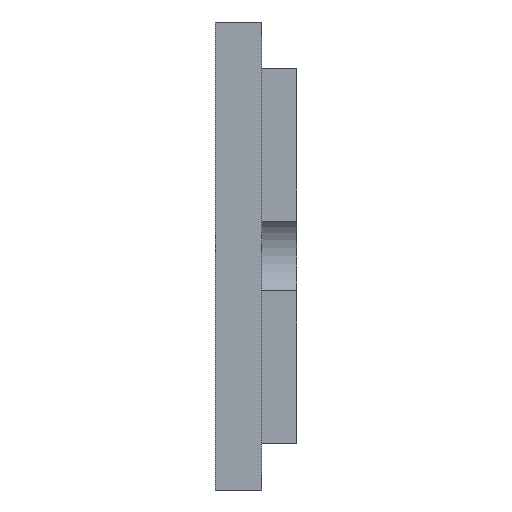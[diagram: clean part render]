
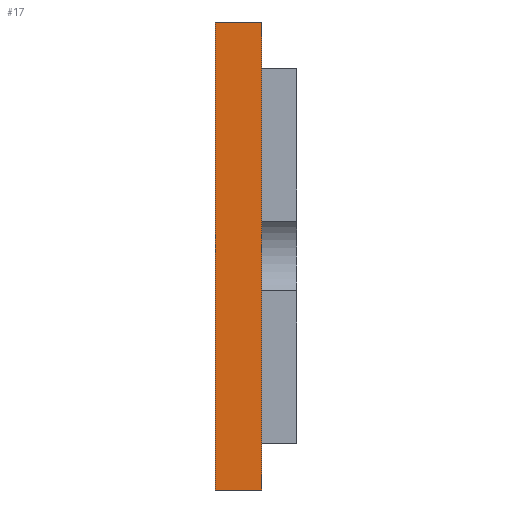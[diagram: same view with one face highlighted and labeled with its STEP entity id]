
A CAD part, left-side view. The second image highlights one B-rep face of the part: STEP entity #17.
In plain terms, the highlighted planar face has unit normal (-1, 0, 0).
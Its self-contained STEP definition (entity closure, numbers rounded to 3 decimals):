
#17 = ADVANCED_FACE('',(#18),#32,.F.);
#18 = FACE_BOUND('',#19,.F.);
#19 = EDGE_LOOP('',(#20,#55,#83,#111));
#20 = ORIENTED_EDGE('',*,*,#21,.F.);
#21 = EDGE_CURVE('',#22,#24,#26,.T.);
#22 = VERTEX_POINT('',#23);
#23 = CARTESIAN_POINT('',(-21.5,-13.3,-40.));
#24 = VERTEX_POINT('',#25);
#25 = CARTESIAN_POINT('',(-21.5,-13.3,-20.));
#26 = SURFACE_CURVE('',#27,(#31,#43),.PCURVE_S1.);
#27 = LINE('',#28,#29);
#28 = CARTESIAN_POINT('',(-21.5,-13.3,-40.));
#29 = VECTOR('',#30,1.);
#30 = DIRECTION('',(0.,0.,1.));
#31 = PCURVE('',#32,#37);
#32 = PLANE('',#33);
#33 = AXIS2_PLACEMENT_3D('',#34,#35,#36);
#34 = CARTESIAN_POINT('',(-21.5,-13.3,-40.));
#35 = DIRECTION('',(1.,0.,0.));
#36 = DIRECTION('',(0.,0.,1.));
#37 = DEFINITIONAL_REPRESENTATION('',(#38),#42);
#38 = LINE('',#39,#40);
#39 = CARTESIAN_POINT('',(0.,0.));
#40 = VECTOR('',#41,1.);
#41 = DIRECTION('',(1.,0.));
#42 = ( GEOMETRIC_REPRESENTATION_CONTEXT(2) 
PARAMETRIC_REPRESENTATION_CONTEXT() REPRESENTATION_CONTEXT('2D SPACE',''
  ) );
#43 = PCURVE('',#44,#49);
#44 = PLANE('',#45);
#45 = AXIS2_PLACEMENT_3D('',#46,#47,#48);
#46 = CARTESIAN_POINT('',(-21.5,-13.3,-40.));
#47 = DIRECTION('',(0.,1.,0.));
#48 = DIRECTION('',(0.,-0.,1.));
#49 = DEFINITIONAL_REPRESENTATION('',(#50),#54);
#50 = LINE('',#51,#52);
#51 = CARTESIAN_POINT('',(0.,0.));
#52 = VECTOR('',#53,1.);
#53 = DIRECTION('',(1.,0.));
#54 = ( GEOMETRIC_REPRESENTATION_CONTEXT(2) 
PARAMETRIC_REPRESENTATION_CONTEXT() REPRESENTATION_CONTEXT('2D SPACE',''
  ) );
#55 = ORIENTED_EDGE('',*,*,#56,.T.);
#56 = EDGE_CURVE('',#22,#57,#59,.T.);
#57 = VERTEX_POINT('',#58);
#58 = CARTESIAN_POINT('',(-21.5,-11.3,-40.));
#59 = SURFACE_CURVE('',#60,(#64,#71),.PCURVE_S1.);
#60 = LINE('',#61,#62);
#61 = CARTESIAN_POINT('',(-21.5,-13.3,-40.));
#62 = VECTOR('',#63,1.);
#63 = DIRECTION('',(0.,1.,0.));
#64 = PCURVE('',#32,#65);
#65 = DEFINITIONAL_REPRESENTATION('',(#66),#70);
#66 = LINE('',#67,#68);
#67 = CARTESIAN_POINT('',(0.,0.));
#68 = VECTOR('',#69,1.);
#69 = DIRECTION('',(0.,-1.));
#70 = ( GEOMETRIC_REPRESENTATION_CONTEXT(2) 
PARAMETRIC_REPRESENTATION_CONTEXT() REPRESENTATION_CONTEXT('2D SPACE',''
  ) );
#71 = PCURVE('',#72,#77);
#72 = PLANE('',#73);
#73 = AXIS2_PLACEMENT_3D('',#74,#75,#76);
#74 = CARTESIAN_POINT('',(-21.5,-13.3,-40.));
#75 = DIRECTION('',(0.,0.,1.));
#76 = DIRECTION('',(1.,0.,0.));
#77 = DEFINITIONAL_REPRESENTATION('',(#78),#82);
#78 = LINE('',#79,#80);
#79 = CARTESIAN_POINT('',(0.,0.));
#80 = VECTOR('',#81,1.);
#81 = DIRECTION('',(0.,1.));
#82 = ( GEOMETRIC_REPRESENTATION_CONTEXT(2) 
PARAMETRIC_REPRESENTATION_CONTEXT() REPRESENTATION_CONTEXT('2D SPACE',''
  ) );
#83 = ORIENTED_EDGE('',*,*,#84,.T.);
#84 = EDGE_CURVE('',#57,#85,#87,.T.);
#85 = VERTEX_POINT('',#86);
#86 = CARTESIAN_POINT('',(-21.5,-11.3,-20.));
#87 = SURFACE_CURVE('',#88,(#92,#99),.PCURVE_S1.);
#88 = LINE('',#89,#90);
#89 = CARTESIAN_POINT('',(-21.5,-11.3,-40.));
#90 = VECTOR('',#91,1.);
#91 = DIRECTION('',(0.,0.,1.));
#92 = PCURVE('',#32,#93);
#93 = DEFINITIONAL_REPRESENTATION('',(#94),#98);
#94 = LINE('',#95,#96);
#95 = CARTESIAN_POINT('',(0.,-2.));
#96 = VECTOR('',#97,1.);
#97 = DIRECTION('',(1.,0.));
#98 = ( GEOMETRIC_REPRESENTATION_CONTEXT(2) 
PARAMETRIC_REPRESENTATION_CONTEXT() REPRESENTATION_CONTEXT('2D SPACE',''
  ) );
#99 = PCURVE('',#100,#105);
#100 = PLANE('',#101);
#101 = AXIS2_PLACEMENT_3D('',#102,#103,#104);
#102 = CARTESIAN_POINT('',(-21.5,-11.3,-40.));
#103 = DIRECTION('',(0.,1.,0.));
#104 = DIRECTION('',(0.,0.,1.));
#105 = DEFINITIONAL_REPRESENTATION('',(#106),#110);
#106 = LINE('',#107,#108);
#107 = CARTESIAN_POINT('',(0.,0.));
#108 = VECTOR('',#109,1.);
#109 = DIRECTION('',(1.,0.));
#110 = ( GEOMETRIC_REPRESENTATION_CONTEXT(2) 
PARAMETRIC_REPRESENTATION_CONTEXT() REPRESENTATION_CONTEXT('2D SPACE',''
  ) );
#111 = ORIENTED_EDGE('',*,*,#112,.F.);
#112 = EDGE_CURVE('',#24,#85,#113,.T.);
#113 = SURFACE_CURVE('',#114,(#118,#125),.PCURVE_S1.);
#114 = LINE('',#115,#116);
#115 = CARTESIAN_POINT('',(-21.5,-13.3,-20.));
#116 = VECTOR('',#117,1.);
#117 = DIRECTION('',(0.,1.,0.));
#118 = PCURVE('',#32,#119);
#119 = DEFINITIONAL_REPRESENTATION('',(#120),#124);
#120 = LINE('',#121,#122);
#121 = CARTESIAN_POINT('',(20.,0.));
#122 = VECTOR('',#123,1.);
#123 = DIRECTION('',(0.,-1.));
#124 = ( GEOMETRIC_REPRESENTATION_CONTEXT(2) 
PARAMETRIC_REPRESENTATION_CONTEXT() REPRESENTATION_CONTEXT('2D SPACE',''
  ) );
#125 = PCURVE('',#126,#131);
#126 = PLANE('',#127);
#127 = AXIS2_PLACEMENT_3D('',#128,#129,#130);
#128 = CARTESIAN_POINT('',(-21.5,-13.3,-20.));
#129 = DIRECTION('',(0.,0.,1.));
#130 = DIRECTION('',(1.,0.,0.));
#131 = DEFINITIONAL_REPRESENTATION('',(#132),#136);
#132 = LINE('',#133,#134);
#133 = CARTESIAN_POINT('',(0.,0.));
#134 = VECTOR('',#135,1.);
#135 = DIRECTION('',(0.,1.));
#136 = ( GEOMETRIC_REPRESENTATION_CONTEXT(2) 
PARAMETRIC_REPRESENTATION_CONTEXT() REPRESENTATION_CONTEXT('2D SPACE',''
  ) );
